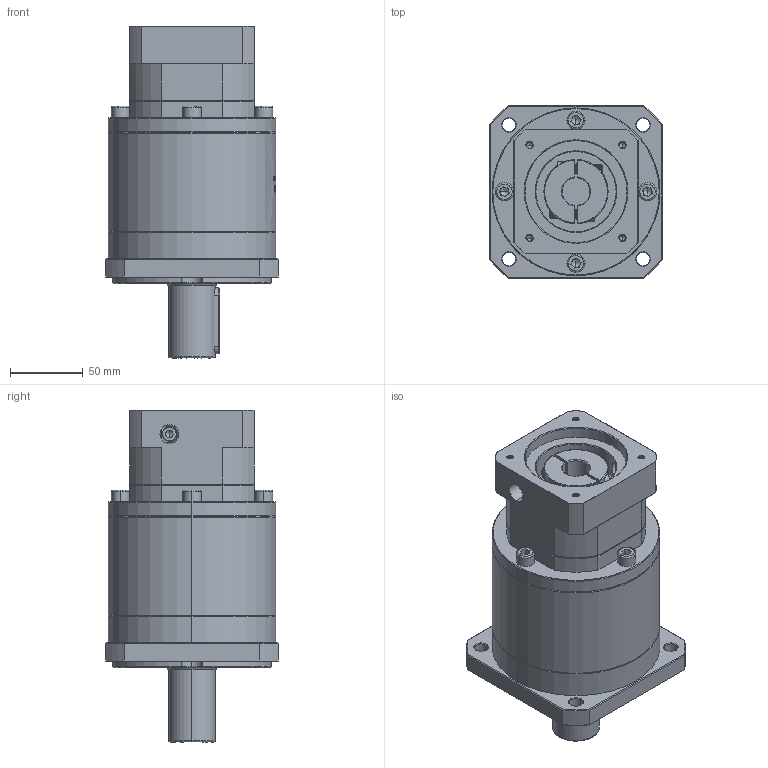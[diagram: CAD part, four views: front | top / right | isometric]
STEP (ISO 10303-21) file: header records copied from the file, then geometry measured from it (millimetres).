
FILE_DESCRIPTION (( 'STEP AP214' ), '1' );
FILE_NAME ('ZF120A-D32-L3-19-70-90-M5.step', '2023-03-07T15:02:46', ( '' ), ( 'Microsoft' ), 'SwSTEP 2.0', 'SolidWorks 2016', '' );
FILE_SCHEMA (( 'AUTOMOTIVE_DESIGN' ));
Length unit declared in the file: millimetre
Products named in the file (1): ZF120A-D32-L3-19-70-90-M5
Bounding box: 118 x 118 x 227.5 mm (x, y, z)
Volume: 1588957.2 mm3; surface area: 136426.3 mm2
Topology: 5 solids, 5 shells, 1906 faces, 5036 edges, 3219 vertices
Faces by surface type: plane 877, cylinder 396, bspline 336, cone 297
Entity records: 104653 total; most frequent: CARTESIAN_POINT 40407, ORIENTED_EDGE 10012, DIRECTION 7621, EDGE_CURVE 5006, VERTEX_POINT 3219, LINE 2731, VECTOR 2731, AXIS2_PLACEMENT_3D 2445
